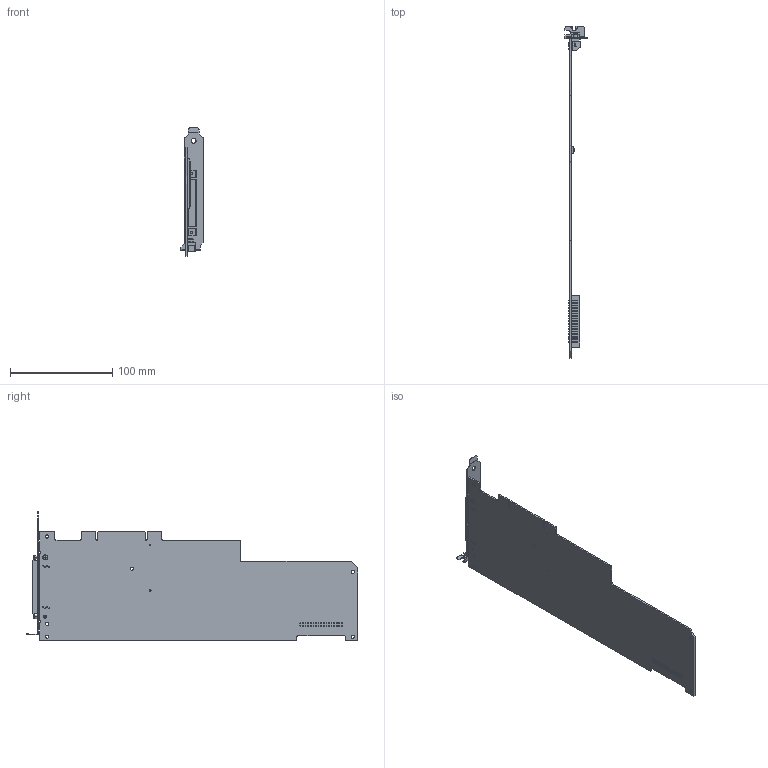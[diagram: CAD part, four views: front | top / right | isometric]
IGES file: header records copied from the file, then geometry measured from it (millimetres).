
Start section:  PTC IGES file: cu_pci-61xx.igs
Global section: file name: cu_pci-61xx.igs; native system: Pro/ENGINEER by Parametric Technology Corporation; preprocessor: 2010230; author: dkendric; organization: Unknown; date: 20110812.115347; units: inch
Bounding box: 21.59 x 325.13 x 126.21 mm (x, y, z)
Surface area: 69121.5 mm2 (no closed solid volume)
Topology: 0 solids, 0 shells, 910 faces, 4968 edges, 4968 vertices
Faces by surface type: bspline 713, revolution 197
